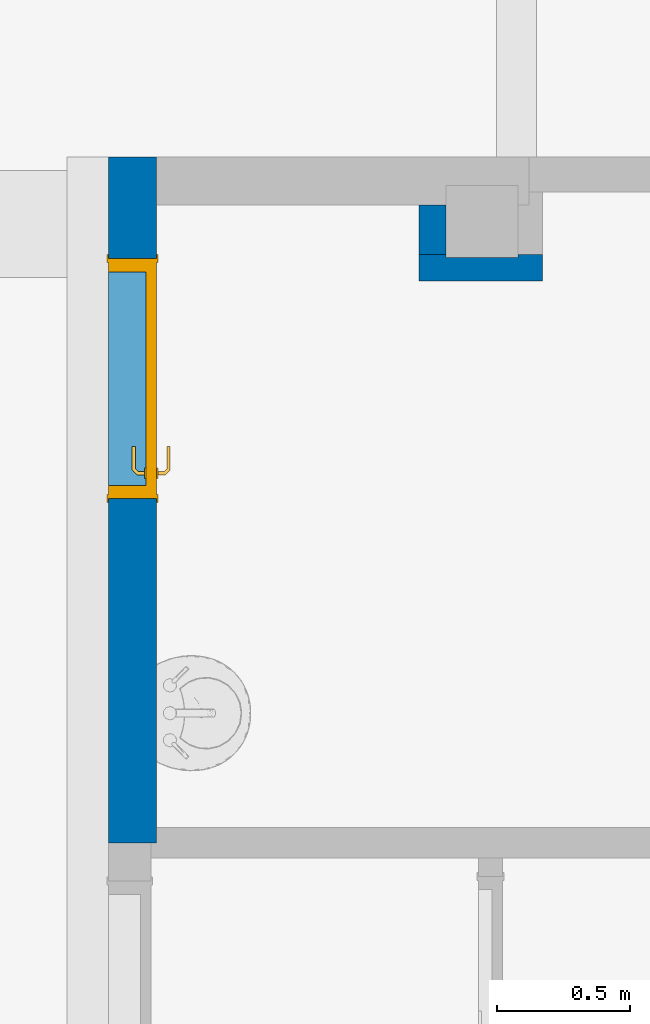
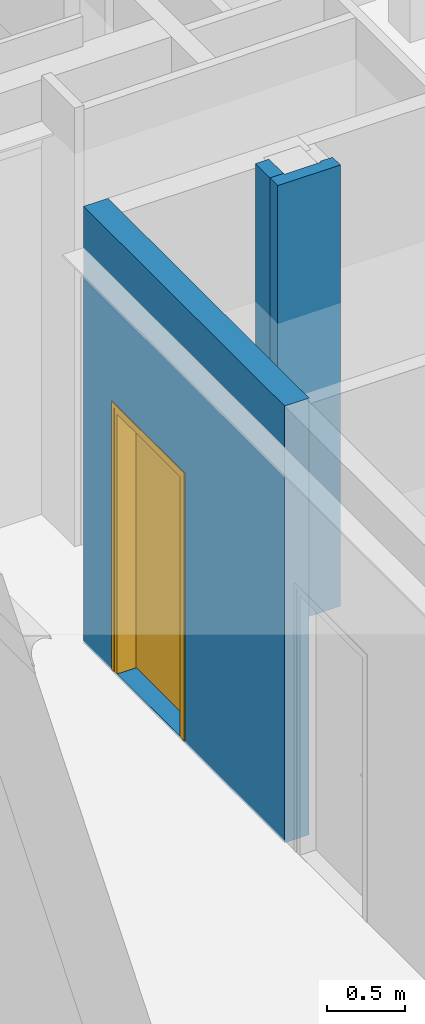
# One storey, part 20 of 65: 3 walls, 1 door, 2 openings.
"""IFC4 building model written with IfcOpenShell, lengths in metres."""

from ifc_helpers import new_model, entity, si_unit, converted_unit, derived_unit, direction, frame, origin, place, context, subcontext, project, spatial, indexed_curve, outline, extrude, polygons, source, transform, mapped, material, material_list, layer, layer_set, constituent, constituent_set, type_object, type_shapes, element, fill, save


model = new_model("IFC4")

# Units and contexts
model_context = context("Model", 3, precision=1e-05, world=origin(), true_north=direction((6.12303176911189e-17, 1.0)))
body_context = subcontext(model_context, "Body", "Model", "MODEL_VIEW")
ifc_project = project(units=[si_unit("LENGTHUNIT", "METRE"), si_unit("AREAUNIT", "SQUARE_METRE"), si_unit("VOLUMEUNIT", "CUBIC_METRE"), converted_unit("PLANEANGLEUNIT", "DEGREE", entity("IfcRatioMeasure", 0.0174532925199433), si_unit("PLANEANGLEUNIT", "RADIAN"), dimensions=[0, 0, 0, 0, 0, 0, 0]), si_unit("MASSUNIT", "GRAM", prefix="KILO"), derived_unit("MASSDENSITYUNIT", [(si_unit("MASSUNIT", "GRAM", prefix="KILO"), 1), (si_unit("LENGTHUNIT", "METRE"), -3)]), derived_unit("MOMENTOFINERTIAUNIT", [(si_unit("LENGTHUNIT", "METRE"), 4)]), si_unit("TIMEUNIT", "SECOND"), si_unit("FREQUENCYUNIT", "HERTZ"), si_unit("THERMODYNAMICTEMPERATUREUNIT", "DEGREE_CELSIUS"), derived_unit("THERMALTRANSMITTANCEUNIT", [(si_unit("MASSUNIT", "GRAM", prefix="KILO"), 1), (si_unit("THERMODYNAMICTEMPERATUREUNIT", "KELVIN"), -1), (si_unit("TIMEUNIT", "SECOND"), -3)]), derived_unit("VOLUMETRICFLOWRATEUNIT", [(si_unit("LENGTHUNIT", "METRE"), 3), (si_unit("TIMEUNIT", "SECOND"), -1)]), si_unit("ELECTRICCURRENTUNIT", "AMPERE"), si_unit("ELECTRICVOLTAGEUNIT", "VOLT"), si_unit("POWERUNIT", "WATT"), si_unit("FORCEUNIT", "NEWTON", prefix="KILO"), si_unit("ILLUMINANCEUNIT", "LUX"), si_unit("LUMINOUSFLUXUNIT", "LUMEN"), si_unit("LUMINOUSINTENSITYUNIT", "CANDELA"), derived_unit("USERDEFINED", [(si_unit("MASSUNIT", "GRAM", prefix="KILO"), -1), (si_unit("LENGTHUNIT", "METRE"), -2), (si_unit("TIMEUNIT", "SECOND"), 3), (si_unit("LUMINOUSFLUXUNIT", "LUMEN"), 1)]), derived_unit("LINEARVELOCITYUNIT", [(si_unit("LENGTHUNIT", "METRE"), 1), (si_unit("TIMEUNIT", "SECOND"), -1)]), si_unit("PRESSUREUNIT", "PASCAL"), derived_unit("USERDEFINED", [(si_unit("LENGTHUNIT", "METRE"), -2), (si_unit("MASSUNIT", "GRAM", prefix="KILO"), 1), (si_unit("TIMEUNIT", "SECOND"), -2)]), derived_unit("LINEARFORCEUNIT", [(si_unit("MASSUNIT", "GRAM", prefix="KILO"), 1), (si_unit("LENGTHUNIT", "METRE"), 1), (si_unit("TIMEUNIT", "SECOND"), -2), (si_unit("LENGTHUNIT", "METRE"), -1)]), derived_unit("PLANARFORCEUNIT", [(si_unit("MASSUNIT", "GRAM", prefix="KILO"), 1), (si_unit("LENGTHUNIT", "METRE"), 1), (si_unit("TIMEUNIT", "SECOND"), -2), (si_unit("LENGTHUNIT", "METRE"), -2)])], contexts=[model_context])

# Site, building, storey
site_placement = place(None, origin())
site = spatial("IfcSite", under=ifc_project, at=site_placement, Name="Default", CompositionType="ELEMENT")
building_placement = place(site_placement, origin())
building = spatial("IfcBuilding", under=site, at=building_placement, Name="HOTEL CONSULAIRE BOULOGNE SUR MER", CompositionType="ELEMENT")
storey_placement = place(building_placement, origin())
storey = spatial("IfcBuildingStorey", under=building, at=storey_placement, Name="Niveau 0", CompositionType="ELEMENT", Elevation=1.31981936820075e-13)

# Wall, opening, door
ifc_material_1 = material(Name="Mur par défaut", Category="Divers")
ifc_layer_1 = layer(ifc_material_1, 0.18, Name="Mur par défaut", Category="Divers")
ifc_layer_set_1 = layer_set([ifc_layer_1], Name="Mur de base:Générique - Int.180")
wall_type_1 = type_object("IfcWallType", Name="Mur de base:Générique - Int.180", PredefinedType="NOTDEFINED", material=ifc_layer_set_1)
wall_1_placement = place(storey_placement, frame((-2.53945658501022, -17.9450602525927, -0.0200000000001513), z_axis=(0.0, 0.0, 1.0), x_axis=(0.0, 1.0, 0.0)))
wall_1 = element("IfcWall", 1, at=wall_1_placement, inside=storey, type_object=wall_type_1, material=ifc_layer_set_1, Name="Mur de base:Générique - Int.180", ObjectType="Mur de base:Générique - Int.180", PredefinedType="NOTDEFINED", context=body_context, shape_type="Tessellation", body=[
    polygons([(0.0, -0.0900000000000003, -2.15727435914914e-16), (0.0574999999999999, -0.0900000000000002, -2.15727435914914e-16), (2.38981820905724, -0.0900000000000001, -2.15727435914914e-16), (2.56981820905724, -0.0900000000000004, -2.15727435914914e-16), (2.56981820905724, -0.0900000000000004, 3.40652697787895), (0.0, -0.0900000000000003, 3.40652697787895), (2.18981820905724, -0.0900000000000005, 2.09500000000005), (2.18981820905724, -0.0900000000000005, 0.0200000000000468), (1.28981820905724, -0.0900000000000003, 0.0200000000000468), (1.28981820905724, -0.0900000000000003, 2.09500000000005), (2.56981820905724, 0.0899999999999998, -2.15727435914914e-16), (0.0, 0.0899999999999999, 0.0), (0.0, 0.0899999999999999, 3.40652697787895), (2.56981820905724, 0.0899999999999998, 3.40652697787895), (2.18981820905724, 0.0899999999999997, 0.0200000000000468), (2.18981820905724, 0.0899999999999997, 2.09500000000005), (1.28981820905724, 0.0899999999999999, 2.09500000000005), (1.28981820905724, 0.0899999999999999, 0.0200000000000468), (0.0, -0.070105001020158, -2.15727435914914e-16)], [[[1, 2, 3, 4, 5, 6], [10, 7, 8, 9]], [[11, 12, 13, 14], [16, 17, 18, 15]], [[2, 1, 19, 12, 11, 4, 3]], [[17, 16, 7, 10]], [[1, 6, 13, 12, 19]], [[16, 15, 8, 7]], [[5, 4, 11, 14]], [[18, 17, 10, 9]], [[15, 18, 9, 8]], [[6, 5, 14, 13]]], closed=True),
])
opening_1_placement = place(wall_1_placement, frame((2.18981820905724, 0.0899999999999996, 0.0200000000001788)))
opening_1 = element("IfcOpeningElement", 2, at=opening_1_placement, cuts=wall_1, Name="Int. Simple:PP (0.83m x 2.04m):1", ObjectType="Opening", PredefinedType="OPENING", context=body_context, shape_type="SweptSolid", body=[
    extrude(outline(indexed_curve([(0.0, 0.0), (2.075, 0.0), (2.075, 0.900000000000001), (0.0, 0.900000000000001), (0.0, 0.0)], self_intersect=False)), frame((0.0, 0.0, 0.0), z_axis=(0.0, -1.0, 0.0), x_axis=(0.0, 0.0, 1.0)), (0.0, 0.0, 1.0), 0.18),
])
ifc_material_2 = material(Name="Finition Peinture - Blanc satiné", Category="Peinture")
ifc_constituent_1 = constituent(ifc_material_2, Name="Finition Peinture - Blanc satiné", Category="Matériaux")
ifc_material_3 = material(Name="Bois - Panneau de porte", Category="Bois")
ifc_constituent_2 = constituent(ifc_material_3, Name="Bois - Panneau de porte", Category="Matériaux")
ifc_material_4 = material(Name="Bois - Cadre de porte", Category="Bois")
ifc_constituent_3 = constituent(ifc_material_4, Name="Bois - Cadre de porte", Category="Matériaux")
ifc_constituent_set = constituent_set(constituents=[ifc_constituent_1, ifc_constituent_2, ifc_constituent_3], Name="MaterialConstituentSet")
ifc_material_list = material_list([ifc_material_3, ifc_material_4, ifc_material_4, ifc_material_2])
door_type = type_object("IfcDoorType", Name="Int. Simple:PP (0.83m x 2.04m)", OperationType="NOTDEFINED", PredefinedType="DOOR", material=ifc_material_list)
shared_shape = source(origin(), body_context, "Body", "Tessellation", [
    polygons([(0.0750000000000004, -0.00500000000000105, 0.870000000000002), (0.0846472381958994, -0.00500000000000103, 0.866003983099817), (0.0950000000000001, -0.00500000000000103, 0.86464101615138), (0.105352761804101, -0.00500000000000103, 0.866003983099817), (0.115, -0.00500000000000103, 0.870000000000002), (0.114999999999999, -0.00500000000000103, 1.08), (0.1053527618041, -0.00500000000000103, 1.08399601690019), (0.094999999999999, -0.00500000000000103, 1.08535898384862), (0.0846472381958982, -0.00500000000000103, 1.08399601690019), (0.0749999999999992, -0.00500000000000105, 1.08), (0.0749999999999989, -1.06594733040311e-15, 0.870000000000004), (0.0749999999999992, -1.06594733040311e-15, 1.08), (0.0846472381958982, -1.04902753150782e-15, 1.08399601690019), (0.094999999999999, -1.04902753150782e-15, 1.08535898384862), (0.1053527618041, -1.04902753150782e-15, 1.08399601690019), (0.114999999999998, -1.04902753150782e-15, 1.08), (0.115, -1.04902753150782e-15, 0.870000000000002), (0.105352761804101, -1.04902753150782e-15, 0.866003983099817), (0.0950000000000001, -1.04902753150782e-15, 0.86464101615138), (0.0846472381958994, -1.04902753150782e-15, 0.866003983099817)], [[[4, 5, 6, 7, 8, 9, 10, 1, 2, 3]], [[15, 16, 17, 18, 19, 20, 11, 12, 13, 14]], [[11, 20, 2, 1]], [[2, 20, 19, 3]], [[19, 18, 4, 3]], [[18, 17, 5, 4]], [[6, 5, 17, 16]], [[16, 15, 7, 6]], [[7, 15, 14, 8]], [[14, 13, 9, 8]], [[13, 12, 10, 9]], [[1, 10, 12, 11]]], closed=True),
    polygons([(0.114999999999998, 0.0399999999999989, 1.08), (0.105352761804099, 0.0399999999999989, 1.08399601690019), (0.0949999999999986, 0.0399999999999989, 1.08535898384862), (0.084647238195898, 0.0399999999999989, 1.08399601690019), (0.0749999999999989, 0.0399999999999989, 1.08), (0.0750000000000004, 0.0399999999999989, 0.870000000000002), (0.0846472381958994, 0.0399999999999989, 0.866003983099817), (0.0950000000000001, 0.0399999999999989, 0.86464101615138), (0.105352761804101, 0.0399999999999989, 0.866003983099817), (0.115, 0.0399999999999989, 0.870000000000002), (0.114999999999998, 0.044999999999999, 1.08), (0.115, 0.044999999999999, 0.870000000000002), (0.105352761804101, 0.0449999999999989, 0.866003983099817), (0.0950000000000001, 0.0449999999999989, 0.86464101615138), (0.0846472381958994, 0.0449999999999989, 0.866003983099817), (0.0749999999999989, 0.0449999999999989, 0.870000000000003), (0.0749999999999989, 0.0449999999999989, 1.08), (0.084647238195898, 0.0449999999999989, 1.08399601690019), (0.0949999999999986, 0.0449999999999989, 1.08535898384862), (0.105352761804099, 0.0449999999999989, 1.08399601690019)], [[[9, 10, 1, 2, 3, 4, 5, 6, 7, 8]], [[20, 11, 12, 13, 14, 15, 16, 17, 18, 19]], [[11, 20, 2, 1]], [[2, 20, 19, 3]], [[19, 18, 4, 3]], [[18, 17, 5, 4]], [[6, 5, 17, 16]], [[16, 15, 7, 6]], [[7, 15, 14, 8]], [[14, 13, 9, 8]], [[13, 12, 10, 9]], [[1, 10, 12, 11]]], closed=True),
    polygons([(0.0889999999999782, -0.00500000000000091, 1.007), (0.0929747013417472, -0.00500000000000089, 1.00778044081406), (0.0970252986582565, -0.00500000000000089, 1.00778044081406), (0.101000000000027, -0.00500000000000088, 1.00699999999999), (0.101000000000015, -0.00500000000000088, 0.993000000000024), (0.0970252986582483, -0.00500000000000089, 0.992219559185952), (0.0929747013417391, -0.00500000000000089, 0.99221955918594), (0.0889999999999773, -0.00500000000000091, 0.992999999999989), (0.0889999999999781, -0.0326509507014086, 1.007), (0.092974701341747, -0.0310045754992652, 1.00778044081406), (0.0970252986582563, -0.0293267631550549, 1.00778044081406), (0.101000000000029, -0.0276803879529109, 1.007), (0.101000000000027, -0.0276803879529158, 0.993000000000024), (0.0970252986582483, -0.0293267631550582, 0.992219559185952), (0.0929747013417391, -0.0310045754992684, 0.99221955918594), (0.0889999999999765, -0.0326509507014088, 0.992999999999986), (0.107377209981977, -0.051028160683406, 1.007), (0.10902358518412, -0.0470534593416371, 1.00778044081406), (0.110701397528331, -0.0430028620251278, 1.00778044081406), (0.112347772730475, -0.0390281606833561, 1.007), (0.112347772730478, -0.0390281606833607, 0.993000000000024), (0.110701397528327, -0.0430028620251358, 0.992219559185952), (0.109023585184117, -0.0470534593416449, 0.99221955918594), (0.107377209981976, -0.0510281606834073, 0.992999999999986), (0.195018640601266, -0.0510281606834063, 1.00699999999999), (0.195018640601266, -0.051028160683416, 0.992999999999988), (0.195018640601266, -0.0470534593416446, 0.99221955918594), (0.195018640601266, -0.0430028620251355, 0.992219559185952), (0.195018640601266, -0.0390281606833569, 0.993000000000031), (0.195018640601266, -0.0390281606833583, 1.007), (0.195018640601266, -0.0430028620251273, 1.00778044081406), (0.195018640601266, -0.0470534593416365, 1.00778044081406), (0.147307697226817, -0.0510281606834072, 1.007), (0.152860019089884, -0.045028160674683, 1.0078786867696), (0.15368320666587, -0.039028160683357, 1.007), (0.147307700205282, -0.0510281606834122, 0.992999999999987), (0.152860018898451, -0.0450281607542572, 0.992121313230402), (0.153683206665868, -0.0390281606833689, 0.993000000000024)], [[[2, 3, 4, 5, 6, 7, 8, 1]], [[21, 20, 35, 30, 29, 38]], [[9, 10, 2, 1]], [[10, 18, 19, 11, 3, 2]], [[11, 12, 4, 3]], [[5, 4, 12, 13]], [[26, 27, 28, 29, 30, 31, 32, 25]], [[13, 14, 6, 5]], [[14, 22, 23, 15, 7, 6]], [[15, 16, 8, 7]], [[1, 8, 16, 9]], [[17, 18, 10, 9]], [[19, 20, 12, 11]], [[13, 12, 20, 21]], [[21, 22, 14, 13]], [[23, 24, 16, 15]], [[9, 16, 24, 17]], [[33, 32, 34]], [[25, 32, 33]], [[18, 17, 33]], [[34, 35, 19]], [[20, 19, 35]], [[35, 31, 30]], [[32, 31, 34]], [[31, 35, 34]], [[18, 33, 34]], [[18, 34, 19]], [[38, 28, 37]], [[36, 37, 27]], [[21, 38, 22]], [[38, 29, 28]], [[26, 36, 27]], [[24, 23, 36]], [[36, 23, 37]], [[23, 22, 37]], [[22, 38, 37]], [[27, 37, 28]], [[17, 24, 36, 26, 25, 33]]], closed=True),
    polygons([(0.10100000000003, 0.0449999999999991, 0.993000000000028), (0.101000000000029, 0.0449999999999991, 1.007), (0.0970252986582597, 0.0449999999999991, 1.00778044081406), (0.0929747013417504, 0.0449999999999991, 1.00778044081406), (0.0889999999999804, 0.0449999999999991, 1.007), (0.0889999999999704, 0.0449999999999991, 0.992999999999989), (0.0929747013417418, 0.0449999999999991, 0.99221955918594), (0.0970252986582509, 0.0449999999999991, 0.992219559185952), (0.10100000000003, 0.067485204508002, 0.993000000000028), (0.10100000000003, 0.0674852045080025, 1.007), (0.0970252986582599, 0.0691315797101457, 1.00778044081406), (0.0929747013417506, 0.070809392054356, 1.00778044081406), (0.0889999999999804, 0.0724557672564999, 1.007), (0.0889999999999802, 0.0724557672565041, 0.992999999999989), (0.0929747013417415, 0.0708093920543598, 0.99221955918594), (0.0970252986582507, 0.0691315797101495, 0.992219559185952), (0.112485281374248, 0.0789704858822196, 0.993000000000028), (0.112485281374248, 0.0789704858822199, 1.007), (0.110838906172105, 0.0829451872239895, 1.00778044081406), (0.109161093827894, 0.0869957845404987, 1.00778044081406), (0.107514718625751, 0.090970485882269, 1.007), (0.107514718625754, 0.090970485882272, 0.992999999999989), (0.109161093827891, 0.0869957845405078, 0.99221955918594), (0.110838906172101, 0.0829451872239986, 0.992219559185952), (0.195045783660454, 0.0789704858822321, 0.993000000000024), (0.195045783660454, 0.0829451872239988, 0.992219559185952), (0.195045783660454, 0.086995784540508, 0.99221955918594), (0.195045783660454, 0.0909704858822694, 0.992999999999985), (0.195045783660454, 0.0909704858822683, 1.007), (0.195045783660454, 0.0869957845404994, 1.00778044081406), (0.195045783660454, 0.0829451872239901, 1.00778044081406), (0.195045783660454, 0.0789704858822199, 1.007), (0.147445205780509, 0.0909704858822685, 1.007), (0.152942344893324, 0.0849704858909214, 1.0078786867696), (0.153765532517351, 0.0789704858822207, 1.007), (0.147445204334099, 0.0909704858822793, 0.992999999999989), (0.152942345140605, 0.0849704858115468, 0.992121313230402), (0.153765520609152, 0.0789704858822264, 0.993000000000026)], [[[4, 5, 6, 7, 8, 1, 2, 3]], [[18, 17, 38, 25, 32, 35]], [[2, 1, 9, 10]], [[25, 26, 27, 28, 29, 30, 31, 32]], [[10, 11, 3, 2]], [[11, 19, 20, 12, 4, 3]], [[12, 13, 5, 4]], [[6, 5, 13, 14]], [[14, 15, 7, 6]], [[15, 23, 24, 16, 8, 7]], [[16, 9, 1, 8]], [[10, 9, 17, 18]], [[18, 19, 11, 10]], [[20, 21, 13, 12]], [[14, 13, 21, 22]], [[22, 23, 15, 14]], [[24, 17, 9, 16]], [[35, 31, 34]], [[33, 34, 30]], [[18, 35, 19]], [[35, 32, 31]], [[29, 33, 30]], [[21, 20, 33]], [[33, 20, 34]], [[20, 19, 34]], [[19, 35, 34]], [[30, 34, 31]], [[21, 33, 29, 28, 36, 22]], [[36, 27, 37]], [[28, 27, 36]], [[23, 22, 36]], [[37, 38, 24]], [[17, 24, 38]], [[38, 26, 25]], [[27, 26, 37]], [[26, 38, 37]], [[23, 36, 37]], [[23, 37, 24]]], closed=True),
    polygons([(0.034999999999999, 0.04, 2.04), (0.865, 0.04, 2.04), (0.864999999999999, 0.04, 0.0), (0.034999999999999, 0.04, 0.0), (0.034999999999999, 5.07593966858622e-17, 2.04), (0.034999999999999, 5.07593966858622e-17, 0.0), (0.864999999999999, 5.07593966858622e-17, 0.0), (0.865, 5.07593966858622e-17, 2.04)], [[[4, 1, 2, 3]], [[7, 8, 5, 6]], [[2, 1, 5, 8]], [[3, 2, 8, 7]], [[4, 3, 7, 6]], [[1, 4, 6, 5]]], closed=True),
    polygons([(-1.54308565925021e-14, 1.69197988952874e-17, 0.0), (-1.54308565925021e-14, 0.180000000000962, 0.0), (0.0499999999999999, 0.180000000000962, 0.0), (0.0499999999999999, 0.0400000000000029, 0.0), (0.0349999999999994, 0.0400000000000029, 0.0), (0.0349999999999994, 1.69197988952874e-17, 0.0), (-1.53631773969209e-14, 1.69197988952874e-17, 2.07500000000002), (-1.53631773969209e-14, 0.180000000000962, 2.07500000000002), (0.900000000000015, 0.180000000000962, 2.07500000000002), (0.900000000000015, 0.180000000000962, 9.23443718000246e-25), (0.85, 0.180000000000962, 6.02669015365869e-24), (0.85, 0.180000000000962, 2.025), (0.05, 0.180000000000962, 2.025), (0.05, 0.0400000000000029, 2.025), (0.85, 0.0400000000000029, 2.025), (0.85, 0.0400000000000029, 1.99209609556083e-25), (0.865, 0.0400000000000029, 1.51399294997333e-24), (0.865000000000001, 0.0400000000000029, 2.04), (0.0349999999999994, 0.0400000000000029, 2.04), (0.0349999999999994, 1.69197988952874e-17, 2.04), (0.865, 1.69197988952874e-17, 2.04), (0.865, 1.69197988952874e-17, 3.40121094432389e-24), (0.900000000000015, 1.69197988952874e-17, 1.81925185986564e-24), (0.900000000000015, 1.69197988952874e-17, 2.07500000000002)], [[[5, 6, 1, 2, 3, 4]], [[11, 10, 23, 22, 17, 16]], [[14, 13, 12, 15]], [[20, 19, 18, 21]], [[2, 1, 7, 8]], [[15, 12, 11, 16]], [[21, 18, 17, 22]], [[3, 2, 8, 9, 10, 11, 12, 13]], [[4, 3, 13, 14]], [[6, 5, 19, 20]], [[9, 24, 23, 10]], [[16, 17, 18, 19, 5, 4, 14, 15]], [[22, 23, 24, 7, 1, 6, 20, 21]], [[8, 7, 24, 9]]], closed=True),
    polygons([(0.0149999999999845, 0.180000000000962, 1.35358391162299e-16), (-0.0150000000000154, 0.180000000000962, 1.35358391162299e-16), (-0.0150000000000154, 0.185000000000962, 1.35358391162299e-16), (0.0149999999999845, 0.185000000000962, 1.35358391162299e-16), (0.0149999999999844, 0.180000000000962, 2.06000000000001), (0.884999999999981, 0.180000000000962, 2.06000000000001), (0.88499999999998, 0.180000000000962, 5.09144897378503e-24), (0.91499999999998, 0.180000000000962, -5.44393448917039e-24), (0.91499999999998, 0.180000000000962, 2.09000000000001), (-0.0150000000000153, 0.180000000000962, 2.09000000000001), (-0.0150000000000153, 0.185000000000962, 2.09000000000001), (0.91499999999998, 0.185000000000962, 2.09000000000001), (0.91499999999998, 0.185000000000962, 5.03766794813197e-24), (0.88499999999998, 0.185000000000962, -1.89153776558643e-24), (0.88499999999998, 0.185000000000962, 2.06000000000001), (0.0149999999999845, 0.185000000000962, 2.06000000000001)], [[[2, 3, 4, 1]], [[14, 13, 8, 7]], [[5, 16, 15, 6]], [[7, 8, 9, 10, 2, 1, 5, 6]], [[3, 2, 10, 11]], [[6, 15, 14, 7]], [[4, 3, 11, 12, 13, 14, 15, 16]], [[1, 4, 16, 5]], [[12, 9, 8, 13]], [[11, 10, 9, 12]]], closed=True),
    polygons([(0.0149999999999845, -0.005, 1.35358391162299e-16), (-0.0150000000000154, -0.005, 1.35358391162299e-16), (-0.0150000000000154, 1.69197988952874e-17, 1.35358391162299e-16), (0.0149999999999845, 1.69197988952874e-17, 1.35358391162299e-16), (0.88499999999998, -0.005, -1.35358391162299e-16), (0.88499999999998, 1.69197988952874e-17, -1.35358391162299e-16), (0.91499999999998, 1.69197988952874e-17, -1.35358391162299e-16), (0.91499999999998, -0.005, -1.35358391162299e-16), (0.0149999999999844, -0.005, 2.06000000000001), (0.884999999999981, -0.005, 2.06000000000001), (0.91499999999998, -0.005, 2.09000000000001), (-0.0150000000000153, -0.005, 2.09000000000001), (-0.0150000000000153, 1.69197988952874e-17, 2.09000000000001), (0.91499999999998, 1.69197988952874e-17, 2.09000000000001), (0.88499999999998, 1.69197988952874e-17, 2.06000000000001), (0.0149999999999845, 1.69197988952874e-17, 2.06000000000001)], [[[1, 2, 3, 4]], [[6, 7, 8, 5]], [[9, 16, 15, 10]], [[5, 8, 11, 12, 2, 1, 9, 10]], [[3, 2, 12, 13]], [[10, 15, 6, 5]], [[4, 3, 13, 14, 7, 6, 15, 16]], [[1, 4, 16, 9]], [[14, 11, 8, 7]], [[13, 12, 11, 14]]], closed=True),
])
type_shapes(door_type, [shared_shape])
door_placement = place(opening_1_placement, frame((-0.9, -0.180000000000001, 0.0)))
door = element("IfcDoor", 3, at=door_placement, inside=storey, type_object=door_type, material=ifc_constituent_set, Name="Int. Simple:PP (0.83m x 2.04m)", ObjectType="Int. Simple:PP (0.83m x 2.04m)", OperationType="NOTDEFINED", OverallHeight=2.075, OverallWidth=0.900000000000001, PredefinedType="DOOR", context=body_context, shape_type="MappedRepresentation", body=[
    mapped(shared_shape, transform((0.0, 0.0, 0.0), scale=1.0)),
])
fill(opening_1, door)

# Wall, opening
ifc_layer_2 = layer(ifc_material_1, 0.1, Name="Mur par défaut", Category="Divers")
ifc_layer_set_2 = layer_set([ifc_layer_2], Name="Mur de base:Générique - Int. 100 mm")
wall_type_2 = type_object("IfcWallType", Name="Mur de base:Générique - Int. 100 mm", PredefinedType="NOTDEFINED", material=ifc_layer_set_2)
wall_2_placement = place(storey_placement, frame((-1.00260619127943, -15.7899828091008, -0.0200000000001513), z_axis=(0.0, 0.0, 1.0), x_axis=(-1.0, 0.0, 0.0)))
wall_2 = element("IfcWall", 4, at=wall_2_placement, inside=storey, type_object=wall_type_2, material=ifc_layer_set_2, Name="Mur de base:Générique - Int. 100 mm", ObjectType="Mur de base:Générique - Int. 100 mm", PredefinedType="NOTDEFINED", context=body_context, shape_type="SweptSolid", body=[
    extrude(outline(indexed_curve([(0.462601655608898, 0.0499999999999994), (4.3401208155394e-17, 0.0499999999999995), (-4.3401208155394e-17, -0.0499999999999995), (0.462601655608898, -0.0499999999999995), (0.462601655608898, 0.0499999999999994)], self_intersect=False)), origin(), (0.0, 0.0, 1.0), 3.44152697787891),
])
opening_2_placement = place(storey_placement, frame((-1.00260619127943, -15.7899828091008, -0.0200000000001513), z_axis=(0.0, 0.0, 1.0), x_axis=(-1.0, 0.0, 0.0)))
element("IfcOpeningElement", 5, at=opening_2_placement, cuts=wall_2, Name="Mur de base:Générique - Int. 100 mm:1", ObjectType="Opening", PredefinedType="OPENING", context=body_context, shape_type="SweptSolid", body=[
    extrude(outline(indexed_curve([(-1.38361079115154, -0.004370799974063), (-1.34861079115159, -0.004370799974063), (2.05791618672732, -0.004370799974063), (2.05791618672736, 0.00655619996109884), (-1.38361079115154, 0.00655619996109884), (-1.38361079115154, -0.004370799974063)], self_intersect=False)), frame((0.361217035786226, -0.0434438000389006, 2.05791618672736), z_axis=(-1.0, 0.0, 0.0), x_axis=(0.0, 0.0, -1.0)), (0.0, 0.0, 1.0), 0.27),
])

# Wall
wall_3_placement = place(storey_placement, frame((-1.41520784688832, -15.7399828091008, -0.0200000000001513), z_axis=(0.0, 0.0, 1.0), x_axis=(0.0, 1.0, 0.0)))
element("IfcWall", 6, at=wall_3_placement, inside=storey, type_object=wall_type_2, material=ifc_layer_set_2, Name="Mur de base:Générique - Int. 100 mm", ObjectType="Mur de base:Générique - Int. 100 mm", PredefinedType="NOTDEFINED", context=body_context, shape_type="SweptSolid", body=[
    extrude(outline(indexed_curve([(0.184740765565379, 0.05), (-7.7668394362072e-17, 0.05), (7.7668394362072e-17, -0.05), (0.184740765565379, -0.05), (0.184740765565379, 0.05)], self_intersect=False)), origin(), (0.0, 0.0, 1.0), 3.44152697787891),
])

save(model, "model.ifc")
